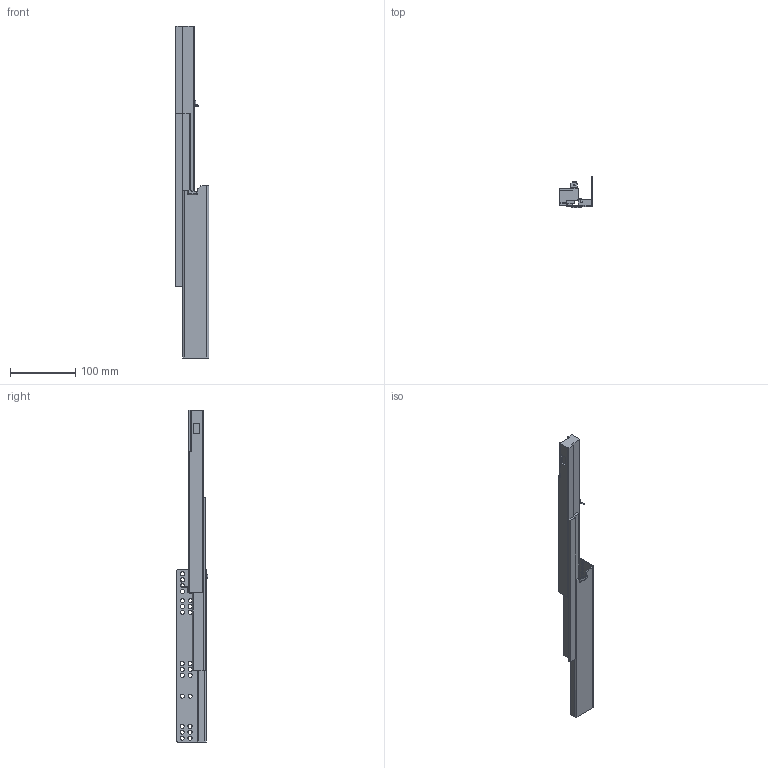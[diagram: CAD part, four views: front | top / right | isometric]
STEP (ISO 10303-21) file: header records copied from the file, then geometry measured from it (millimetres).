
FILE_DESCRIPTION (( 'STEP AP203' ), '1' );
FILE_NAME ('TS10300H-R-DTC3D-open.STEP', '2021-07-09T03:00:06', ( 'df' ), ( 'Microsoft' ), 'SwSTEP 2.0', 'SolidWorks 2018', '' );
FILE_SCHEMA (( 'CONFIG_CONTROL_DESIGN' ));
Length unit declared in the file: millimetre
Products named in the file (1): TS10300H-R-DTC3D-open
Bounding box: 51.73 x 48 x 507.3 mm (x, y, z)
Volume: 294110.6 mm3; surface area: 85730.3 mm2
Topology: 1 solids, 1 shells, 298 faces, 836 edges, 547 vertices
Faces by surface type: plane 117, cylinder 114, bspline 47, torus 16, sphere 4
Entity records: 11410 total; most frequent: CARTESIAN_POINT 3682, ORIENTED_EDGE 1664, DIRECTION 1485, EDGE_CURVE 832, VERTEX_POINT 547, AXIS2_PLACEMENT_3D 514, VECTOR 457, LINE 457
